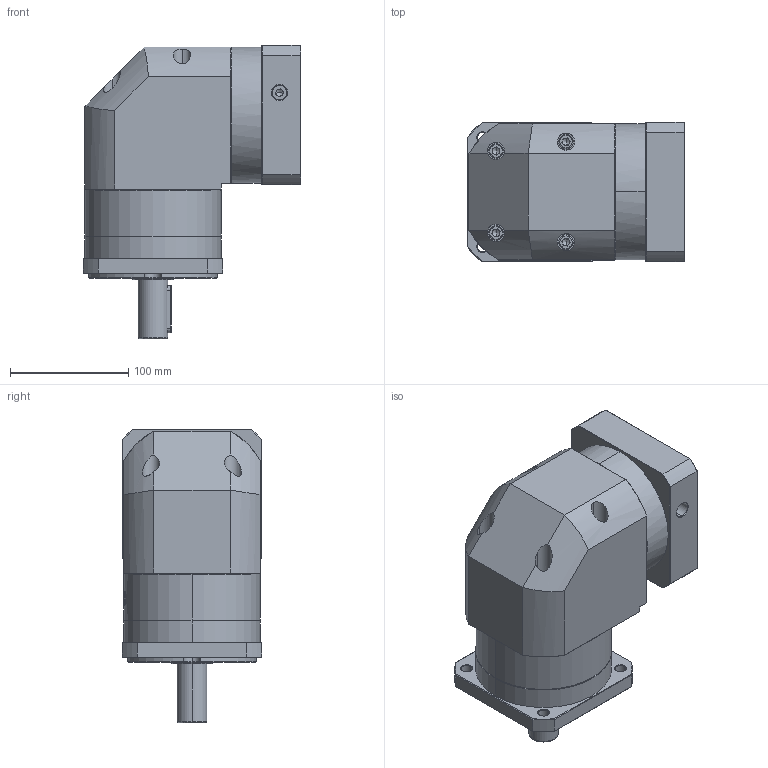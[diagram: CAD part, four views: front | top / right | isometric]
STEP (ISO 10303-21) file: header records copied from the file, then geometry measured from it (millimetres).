
FILE_DESCRIPTION (( 'STEP AP214' ), '1' );
FILE_NAME ('ZFR120A-D25-L1-P2-19-95-115-M6.step', '2023-08-27T08:00:54', ( '' ), ( '' ), 'SwSTEP 2.0', 'SolidWorks 2016', '' );
FILE_SCHEMA (( 'AUTOMOTIVE_DESIGN' ));
Length unit declared in the file: millimetre
Products named in the file (1): ZFR120A-D25-L1-P2-19-95-115-M6
Bounding box: 183.9 x 118 x 248 mm (x, y, z)
Volume: 2799347.8 mm3; surface area: 235433.9 mm2
Topology: 6 solids, 6 shells, 2253 faces, 5942 edges, 3793 vertices
Faces by surface type: plane 1060, bspline 428, cylinder 419, cone 338, torus 8
Entity records: 124480 total; most frequent: CARTESIAN_POINT 49484, ORIENTED_EDGE 11824, DIRECTION 8580, EDGE_CURVE 5912, VERTEX_POINT 3793, LINE 3140, VECTOR 3140, AXIS2_PLACEMENT_3D 2720
